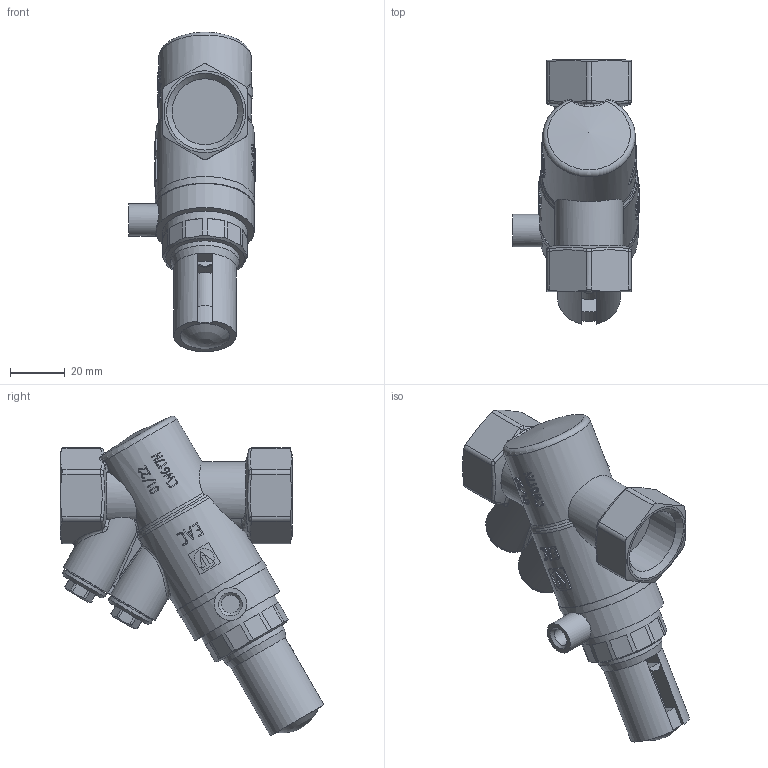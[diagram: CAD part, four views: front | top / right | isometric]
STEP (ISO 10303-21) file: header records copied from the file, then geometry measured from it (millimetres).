
FILE_DESCRIPTION(('STEP AP203'), '1');
FILE_NAME('VT.043.G.0501', '2024-09-18T06:44:08', ('User'), ('Vesta'), 'C3D Converter', 'C3D Toolkit', '');
FILE_SCHEMA(('CONFIG_CONTROL_DESIGN'));
Length unit declared in the file: millimetre
Products named in the file (1):  СБ
Bounding box: 46.5 x 96.66 x 117.15 mm (x, y, z)
Volume: 130310.3 mm3; surface area: 25013.5 mm2
Topology: 1 solids, 1 shells, 790 faces, 2160 edges, 1415 vertices
Faces by surface type: extrusion 329, plane 272, cylinder 84, bspline 79, cone 20, torus 5, sphere 1
Full cylindrical faces by diameter (mm): 6.647 x1, 11.9 x1, 16.2 x2, 18 x2, 23 x1, 24.118 x2, 25 x1, 31 x1, 36 x1, 36.6 x1
Entity records: 47385 total; most frequent: CARTESIAN_POINT 29927, ORIENTED_EDGE 4264, DIRECTION 2311, EDGE_CURVE 2132, VERTEX_POINT 1437, B_SPLINE_CURVE_WITH_KNOTS 1295, VECTOR 1087, EDGE_LOOP 859
